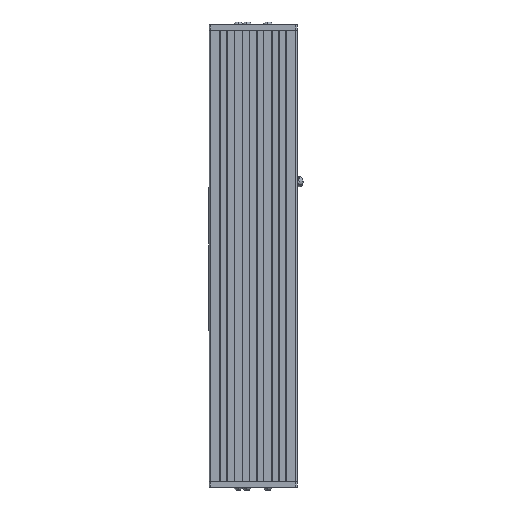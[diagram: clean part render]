
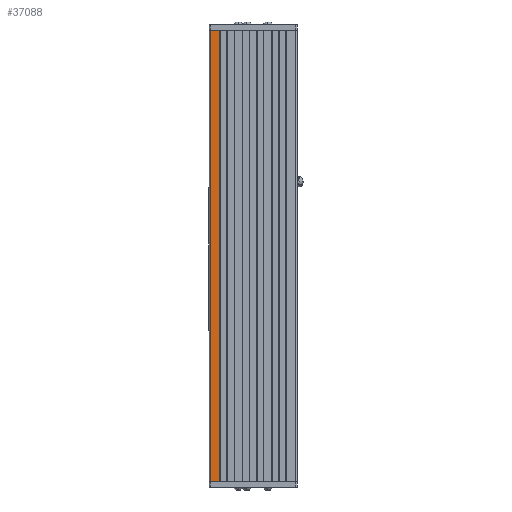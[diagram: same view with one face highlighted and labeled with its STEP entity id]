
A CAD part, front view. The second image highlights one B-rep face of the part: STEP entity #37088.
In plain terms, the highlighted planar face has unit normal (0, -1, 0).
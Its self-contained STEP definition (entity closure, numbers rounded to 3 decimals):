
#25 = ORIENTED_EDGE ( 'NONE', *, *, #9829, .F. ) ;
#26 = ORIENTED_EDGE ( 'NONE', *, *, #9596, .T. ) ;
#27 = ORIENTED_EDGE ( 'NONE', *, *, #16939, .T. ) ;
#28 = ORIENTED_EDGE ( 'NONE', *, *, #9597, .F. ) ;
#244 = LINE ( 'NONE', #1673, #245 ) ;
#245 = VECTOR ( 'NONE', #1674, 1000. ) ;
#246 = LINE ( 'NONE', #1675, #247 ) ;
#247 = VECTOR ( 'NONE', #1676, 1000. ) ;
#1253 = CARTESIAN_POINT ( 'NONE',  ( -64.426, -36.746, 692. ) ) ;
#1269 = CARTESIAN_POINT ( 'NONE',  ( -49.926, -36.746, 692. ) ) ;
#1673 = CARTESIAN_POINT ( 'NONE',  ( -64.426, -36.746, 692. ) ) ;
#1674 = DIRECTION ( 'NONE',  ( 0., 0., -1. ) ) ;
#1675 = CARTESIAN_POINT ( 'NONE',  ( -49.926, -36.746, 692. ) ) ;
#1676 = DIRECTION ( 'NONE',  ( 0., 0., -1. ) ) ;
#4860 = VERTEX_POINT ( 'NONE', #1253 ) ;
#4876 = VERTEX_POINT ( 'NONE', #1269 ) ;
#6189 = EDGE_LOOP ( 'NONE', ( #25, #26, #27, #28 ) ) ;
#9596 = EDGE_CURVE ( 'NONE', #4860, #17905, #244, .T. ) ;
#9597 = EDGE_CURVE ( 'NONE', #4876, #17844, #246, .T. ) ;
#9829 = EDGE_CURVE ( 'NONE', #4860, #4876, #33794, .T. ) ;
#10761 = CARTESIAN_POINT ( 'NONE',  ( -66.426, -36.746, 0. ) ) ;
#10763 = DIRECTION ( 'NONE',  ( 1., 0., 0. ) ) ;
#10977 = CARTESIAN_POINT ( 'NONE',  ( -49.926, -36.746, 0. ) ) ;
#11038 = CARTESIAN_POINT ( 'NONE',  ( -64.426, -36.746, 0. ) ) ;
#16939 = EDGE_CURVE ( 'NONE', #17905, #17844, #17277, .T. ) ;
#17277 = LINE ( 'NONE', #10761, #17278 ) ;
#17278 = VECTOR ( 'NONE', #10763, 1000. ) ;
#17844 = VERTEX_POINT ( 'NONE', #10977 ) ;
#17905 = VERTEX_POINT ( 'NONE', #11038 ) ;
#29130 = CARTESIAN_POINT ( 'NONE',  ( -66.426, -36.746, 692. ) ) ;
#29131 = DIRECTION ( 'NONE',  ( 1., 0., 0. ) ) ;
#30725 = FACE_OUTER_BOUND ( 'NONE', #6189, .T. ) ;
#31251 = PLANE ( 'NONE',  #40379 ) ;
#31252 = CARTESIAN_POINT ( 'NONE',  ( -66.426, -36.746, 692. ) ) ;
#31253 = DIRECTION ( 'NONE',  ( 0., 1., 0. ) ) ;
#31254 = DIRECTION ( 'NONE',  ( 0., 0., 1. ) ) ;
#33794 = LINE ( 'NONE', #29130, #33796 ) ;
#33796 = VECTOR ( 'NONE', #29131, 1000. ) ;
#37088 = ADVANCED_FACE ( 'NONE', ( #30725 ), #31251, .F. ) ;
#40379 = AXIS2_PLACEMENT_3D ( 'NONE', #31252, #31253, #31254 ) ;
